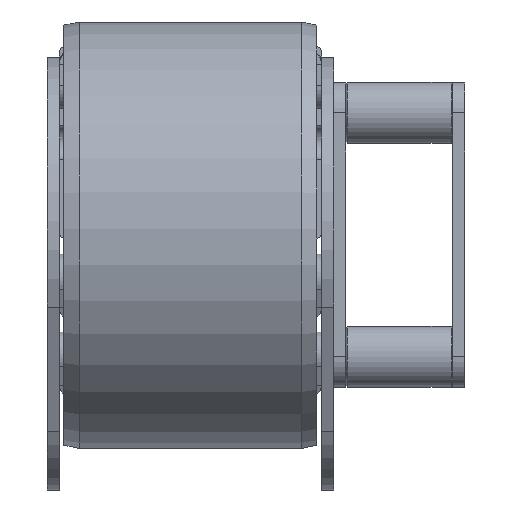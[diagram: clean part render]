
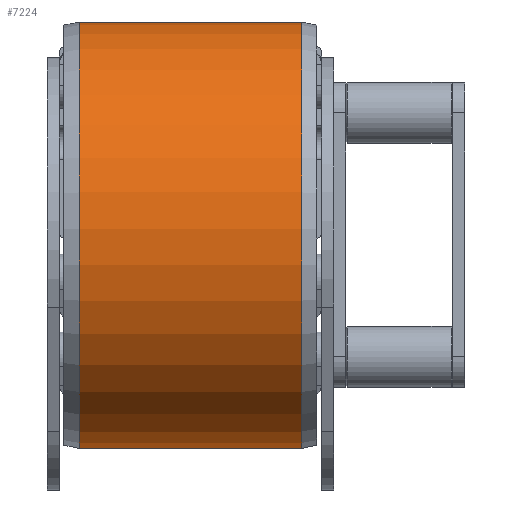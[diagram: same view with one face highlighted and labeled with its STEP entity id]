
A CAD part, front view. The second image highlights one B-rep face of the part: STEP entity #7224.
In plain terms, the highlighted cylindrical face has radius 70 mm (diameter 140 mm), a partial arc.
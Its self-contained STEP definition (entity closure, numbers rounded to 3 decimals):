
#220=CYLINDRICAL_SURFACE('',#7977,70.);
#619=FACE_OUTER_BOUND('',#1064,.T.);
#1064=EDGE_LOOP('',(#5738,#5739,#5740,#5741));
#1447=CIRCLE('',#7975,70.);
#1449=CIRCLE('',#7978,70.);
#1952=LINE('',#11788,#2584);
#1960=LINE('',#11814,#2592);
#2584=VECTOR('',#9587,10.);
#2592=VECTOR('',#9615,10.);
#3237=VERTEX_POINT('',#11780);
#3239=VERTEX_POINT('',#11786);
#3245=VERTEX_POINT('',#11806);
#3247=VERTEX_POINT('',#11812);
#4112=EDGE_CURVE('',#3237,#3239,#1952,.T.);
#4121=EDGE_CURVE('',#3245,#3237,#1447,.T.);
#4124=EDGE_CURVE('',#3247,#3239,#1449,.T.);
#4125=EDGE_CURVE('',#3245,#3247,#1960,.T.);
#5738=ORIENTED_EDGE('',*,*,#4112,.T.);
#5739=ORIENTED_EDGE('',*,*,#4124,.F.);
#5740=ORIENTED_EDGE('',*,*,#4125,.F.);
#5741=ORIENTED_EDGE('',*,*,#4121,.T.);
#7224=ADVANCED_FACE('',(#619),#220,.T.);
#7975=AXIS2_PLACEMENT_3D('',#11807,#9606,#9607);
#7977=AXIS2_PLACEMENT_3D('',#11811,#9611,#9612);
#7978=AXIS2_PLACEMENT_3D('',#11813,#9613,#9614);
#9587=DIRECTION('',(1.,0.,0.));
#9606=DIRECTION('center_axis',(1.,0.,0.));
#9607=DIRECTION('ref_axis',(0.,0.,
1.));
#9611=DIRECTION('center_axis',(1.,0.,0.));
#9612=DIRECTION('ref_axis',(0.,-0.99,-0.139));
#9613=DIRECTION('center_axis',(1.,0.,0.));
#9614=DIRECTION('ref_axis',(0.,0.,
1.));
#9615=DIRECTION('',(1.,0.,0.));
#11780=CARTESIAN_POINT('',(-382.941,-698.577,-49.045));
#11786=CARTESIAN_POINT('',(-309.941,-698.577,-49.045));
#11788=CARTESIAN_POINT('',(-309.941,-698.577,-49.045));
#11806=CARTESIAN_POINT('',(-382.941,-717.828,88.256));
#11807=CARTESIAN_POINT('Origin',(-382.941,-717.828,18.256));
#11811=CARTESIAN_POINT('Origin',(-346.441,-717.828,18.256));
#11812=CARTESIAN_POINT('',(-309.941,-717.828,88.256));
#11813=CARTESIAN_POINT('Origin',(-309.941,-717.828,18.256));
#11814=CARTESIAN_POINT('',(-309.941,-717.828,88.256));
